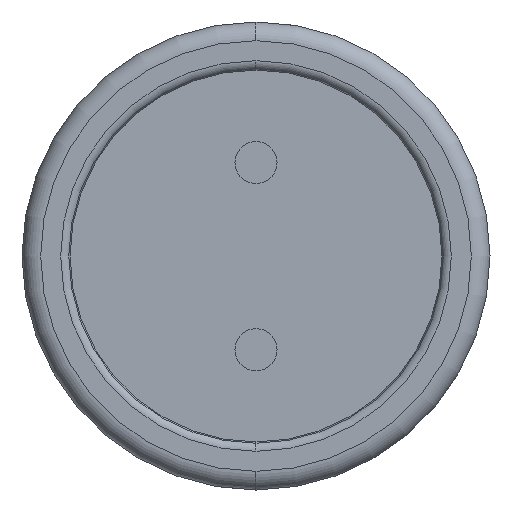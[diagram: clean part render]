
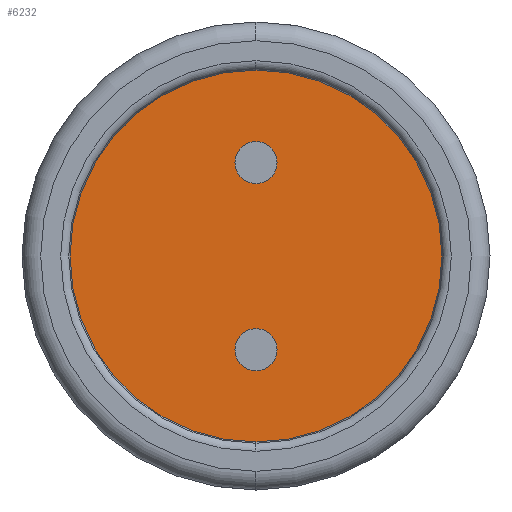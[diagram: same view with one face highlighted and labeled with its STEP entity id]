
A CAD part, left-side view. The second image highlights one B-rep face of the part: STEP entity #6232.
In plain terms, the highlighted planar face has unit normal (-1, 0, 0).
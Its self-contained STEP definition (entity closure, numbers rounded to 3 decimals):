
#40=CARTESIAN_POINT('',(-8.8,0.,0.002));
#41=DIRECTION('',(-1.,0.,0.));
#42=DIRECTION('',(0.,0.,-1.));
#43=AXIS2_PLACEMENT_3D('',#40,#41,#42);
#45=CARTESIAN_POINT('',(-8.8,0.,0.002));
#46=DIRECTION('',(1.,0.,0.));
#47=DIRECTION('',(0.,0.,-1.));
#48=AXIS2_PLACEMENT_3D('',#45,#46,#47);
#50=CARTESIAN_POINT('',(-8.8,0.,-1.));
#51=DIRECTION('',(-1.,0.,0.));
#52=DIRECTION('',(0.,0.,-1.));
#53=AXIS2_PLACEMENT_3D('',#50,#51,#52);
#55=CARTESIAN_POINT('',(-8.8,0.,-1.));
#56=DIRECTION('',(-1.,0.,0.));
#57=DIRECTION('',(0.,0.,1.));
#58=AXIS2_PLACEMENT_3D('',#55,#56,#57);
#60=CARTESIAN_POINT('',(-8.8,0.,1.));
#61=DIRECTION('',(-1.,0.,0.));
#62=DIRECTION('',(0.,0.,-1.));
#63=AXIS2_PLACEMENT_3D('',#60,#61,#62);
#65=CARTESIAN_POINT('',(-8.8,0.,1.));
#66=DIRECTION('',(-1.,0.,0.));
#67=DIRECTION('',(0.,0.,1.));
#68=AXIS2_PLACEMENT_3D('',#65,#66,#67);
#4683=CARTESIAN_POINT('',(-8.8,0.,-1.998));
#4684=VERTEX_POINT('',#4683);
#4685=CARTESIAN_POINT('',(-8.8,0.,2.002));
#4686=VERTEX_POINT('',#4685);
#4691=CARTESIAN_POINT('',(-8.8,0.,-1.225));
#4692=CARTESIAN_POINT('',(-8.8,0.,-0.775));
#4693=VERTEX_POINT('',#4691);
#4694=VERTEX_POINT('',#4692);
#4695=CARTESIAN_POINT('',(-8.8,0.,0.775));
#4696=CARTESIAN_POINT('',(-8.8,0.,1.225));
#4697=VERTEX_POINT('',#4695);
#4698=VERTEX_POINT('',#4696);
#6211=CARTESIAN_POINT('',(-8.8,0.,0.002));
#6212=DIRECTION('',(1.,0.,0.));
#6213=DIRECTION('',(0.,0.,1.));
#6214=AXIS2_PLACEMENT_3D('',#6211,#6212,#6213);
#6215=PLANE('',#6214);
#6216=ORIENTED_EDGE('',*,*,#6190,.F.);
#6217=ORIENTED_EDGE('',*,*,#6206,.T.);
#6218=EDGE_LOOP('',(#6216,#6217));
#6219=FACE_OUTER_BOUND('',#6218,.F.);
#6221=ORIENTED_EDGE('',*,*,#6220,.T.);
#6223=ORIENTED_EDGE('',*,*,#6222,.T.);
#6224=EDGE_LOOP('',(#6221,#6223));
#6225=FACE_BOUND('',#6224,.F.);
#6227=ORIENTED_EDGE('',*,*,#6226,.T.);
#6229=ORIENTED_EDGE('',*,*,#6228,.T.);
#6230=EDGE_LOOP('',(#6227,#6229));
#6231=FACE_BOUND('',#6230,.F.);
#6232=ADVANCED_FACE('',(#6219,#6225,#6231),#6215,.F.);
#44=CIRCLE('',#43,2.);
#49=CIRCLE('',#48,2.);
#54=CIRCLE('',#53,0.225);
#59=CIRCLE('',#58,0.225);
#64=CIRCLE('',#63,0.225);
#69=CIRCLE('',#68,0.225);
#6190=EDGE_CURVE('',#4684,#4686,#44,.T.);
#6206=EDGE_CURVE('',#4684,#4686,#49,.T.);
#6220=EDGE_CURVE('',#4693,#4694,#54,.T.);
#6222=EDGE_CURVE('',#4694,#4693,#59,.T.);
#6226=EDGE_CURVE('',#4697,#4698,#64,.T.);
#6228=EDGE_CURVE('',#4698,#4697,#69,.T.);
